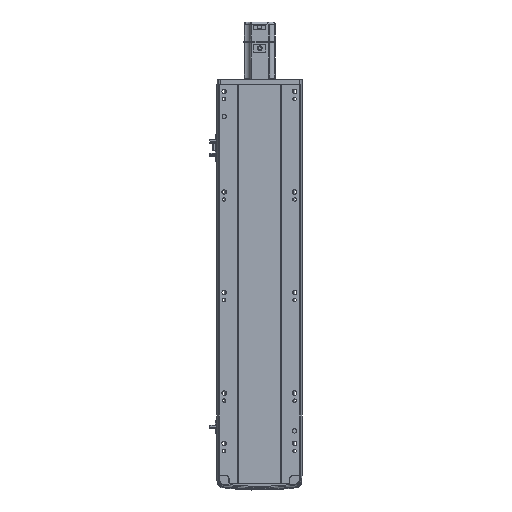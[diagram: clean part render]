
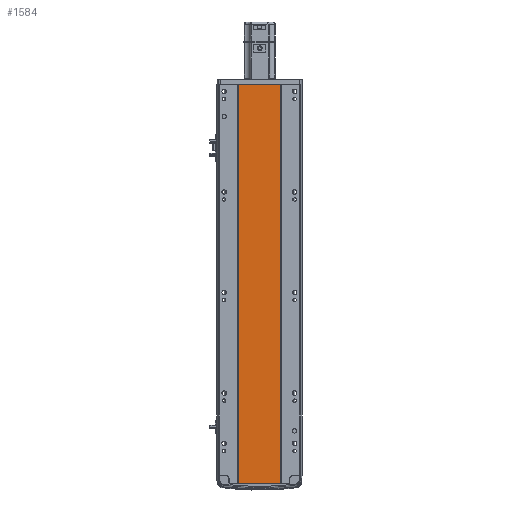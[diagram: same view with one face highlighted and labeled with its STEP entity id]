
A CAD part, front view. The second image highlights one B-rep face of the part: STEP entity #1584.
In plain terms, the highlighted planar face has unit normal (0, -1, 0).
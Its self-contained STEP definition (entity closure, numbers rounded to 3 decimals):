
#1584 = ADVANCED_FACE ( 'NONE', ( #2102 ), #2307, .F. ) ;
#2102 = FACE_OUTER_BOUND ( 'NONE', #28235, .T. ) ;
#2292 = VECTOR ( 'NONE', #27154, 1000. ) ;
#2307 = PLANE ( 'NONE',  #26447 ) ;
#2375 = LINE ( 'NONE', #36968, #30243 ) ;
#2416 = EDGE_CURVE ( 'NONE', #34186, #38760, #28779, .T. ) ;
#4591 = DIRECTION ( 'NONE',  ( 1., 0., 0. ) ) ;
#6282 = EDGE_CURVE ( 'NONE', #21985, #34186, #7967, .T. ) ;
#7967 = LINE ( 'NONE', #43127, #10362 ) ;
#8200 = ORIENTED_EDGE ( 'NONE', *, *, #10618, .T. ) ;
#9187 = ORIENTED_EDGE ( 'NONE', *, *, #38007, .T. ) ;
#10362 = VECTOR ( 'NONE', #4591, 1000. ) ;
#10618 = EDGE_CURVE ( 'NONE', #43082, #38760, #26628, .T. ) ;
#13065 = CARTESIAN_POINT ( 'NONE',  ( 41.793, 0.998, 793.5 ) ) ;
#15104 = VECTOR ( 'NONE', #26883, 1000. ) ;
#15350 = ORIENTED_EDGE ( 'NONE', *, *, #6282, .F. ) ;
#19879 = CARTESIAN_POINT ( 'NONE',  ( 41.793, 0.998, 0. ) ) ;
#20876 = DIRECTION ( 'NONE',  ( 0., 1., 0. ) ) ;
#21535 = DIRECTION ( 'NONE',  ( -1., 0., 0. ) ) ;
#21985 = VERTEX_POINT ( 'NONE', #29467 ) ;
#26447 = AXIS2_PLACEMENT_3D ( 'NONE', #33030, #20876, #21535 ) ;
#26628 = LINE ( 'NONE', #27483, #2292 ) ;
#26883 = DIRECTION ( 'NONE',  ( 0., 0., -1. ) ) ;
#27154 = DIRECTION ( 'NONE',  ( 1., 0., 0. ) ) ;
#27483 = CARTESIAN_POINT ( 'NONE',  ( 0., 0.999, 0. ) ) ;
#28235 = EDGE_LOOP ( 'NONE', ( #8200, #42902, #15350, #9187 ) ) ;
#28779 = LINE ( 'NONE', #38340, #15104 ) ;
#29467 = CARTESIAN_POINT ( 'NONE',  ( -41.791, 1., 793.5 ) ) ;
#30243 = VECTOR ( 'NONE', #45102, 1000. ) ;
#33030 = CARTESIAN_POINT ( 'NONE',  ( 0., 0.999, 793.5 ) ) ;
#34186 = VERTEX_POINT ( 'NONE', #13065 ) ;
#36968 = CARTESIAN_POINT ( 'NONE',  ( -41.791, 1., 793.5 ) ) ;
#38007 = EDGE_CURVE ( 'NONE', #21985, #43082, #2375, .T. ) ;
#38340 = CARTESIAN_POINT ( 'NONE',  ( 41.793, 0.998, 793.5 ) ) ;
#38760 = VERTEX_POINT ( 'NONE', #19879 ) ;
#42902 = ORIENTED_EDGE ( 'NONE', *, *, #2416, .F. ) ;
#43082 = VERTEX_POINT ( 'NONE', #44553 ) ;
#43127 = CARTESIAN_POINT ( 'NONE',  ( 0., 0.999, 793.5 ) ) ;
#44553 = CARTESIAN_POINT ( 'NONE',  ( -41.791, 1., 0. ) ) ;
#45102 = DIRECTION ( 'NONE',  ( 0., 0., -1. ) ) ;
